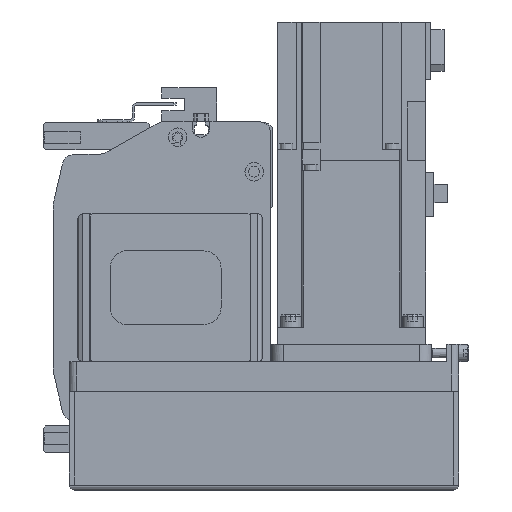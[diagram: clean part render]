
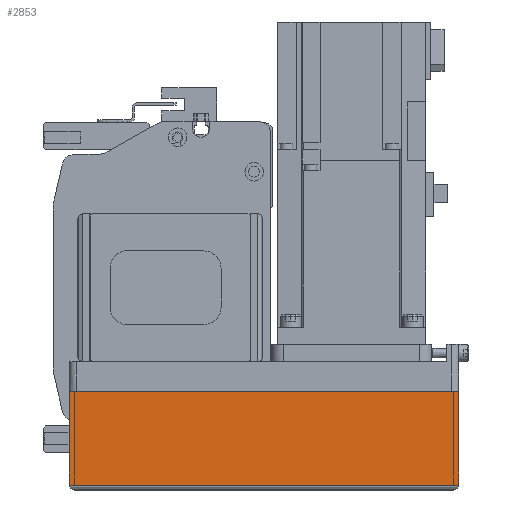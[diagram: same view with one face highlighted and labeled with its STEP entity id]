
A CAD part, left-side view. The second image highlights one B-rep face of the part: STEP entity #2853.
In plain terms, the highlighted planar face has unit normal (-1, 0, 0) as drawn and (0, 1, 0) by its records, which use the part's own axes.
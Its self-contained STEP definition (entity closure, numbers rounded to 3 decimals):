
#2853 = ADVANCED_FACE( '', ( #6195 ), #6196, .T. );
#6195 = FACE_OUTER_BOUND( '', #9947, .T. );
#6196 = PLANE( '', #9948 );
#9947 = EDGE_LOOP( '', ( #17969, #17970, #17971, #17972 ) );
#9948 = AXIS2_PLACEMENT_3D( '', #17973, #17974, #17975 );
#17969 = ORIENTED_EDGE( '', *, *, #22621, .F. );
#17970 = ORIENTED_EDGE( '', *, *, #23051, .F. );
#17971 = ORIENTED_EDGE( '', *, *, #20943, .T. );
#17972 = ORIENTED_EDGE( '', *, *, #23733, .T. );
#17973 = CARTESIAN_POINT( '', ( -158., 39., -50. ) );
#17974 = DIRECTION( '', ( 0., 1., 0. ) );
#17975 = DIRECTION( '', ( 0., 0., 1. ) );
#20943 = EDGE_CURVE( '', #24771, #24768, #24772, .T. );
#22621 = EDGE_CURVE( '', #27611, #27612, #27613, .T. );
#23051 = EDGE_CURVE( '', #24771, #27611, #28255, .T. );
#23733 = EDGE_CURVE( '', #24768, #27612, #29209, .T. );
#24768 = VERTEX_POINT( '', #30486 );
#24771 = VERTEX_POINT( '', #30490 );
#24772 = LINE( '', #30491, #30492 );
#27611 = VERTEX_POINT( '', #34897 );
#27612 = VERTEX_POINT( '', #34898 );
#27613 = LINE( '', #34899, #34900 );
#28255 = LINE( '', #35912, #35913 );
#29209 = LINE( '', #37450, #37451 );
#30486 = CARTESIAN_POINT( '', ( -158., 39., -12.1 ) );
#30490 = CARTESIAN_POINT( '', ( -158., 39., -50. ) );
#30491 = CARTESIAN_POINT( '', ( -158., 39., -50. ) );
#30492 = VECTOR( '', #39334, 1000. );
#34897 = CARTESIAN_POINT( '', ( 0., 39., -50. ) );
#34898 = CARTESIAN_POINT( '', ( 0., 39., -12.1 ) );
#34899 = CARTESIAN_POINT( '', ( 0., 39., -50. ) );
#34900 = VECTOR( '', #41423, 1000. );
#35912 = CARTESIAN_POINT( '', ( -158., 39., -50. ) );
#35913 = VECTOR( '', #41970, 1000. );
#37450 = CARTESIAN_POINT( '', ( -158., 39., -12.1 ) );
#37451 = VECTOR( '', #42731, 1000. );
#39334 = DIRECTION( '', ( 0., 0., 1. ) );
#41423 = DIRECTION( '', ( 0., 0., 1. ) );
#41970 = DIRECTION( '', ( 1., 0., 0. ) );
#42731 = DIRECTION( '', ( 1., 0., 0. ) );
